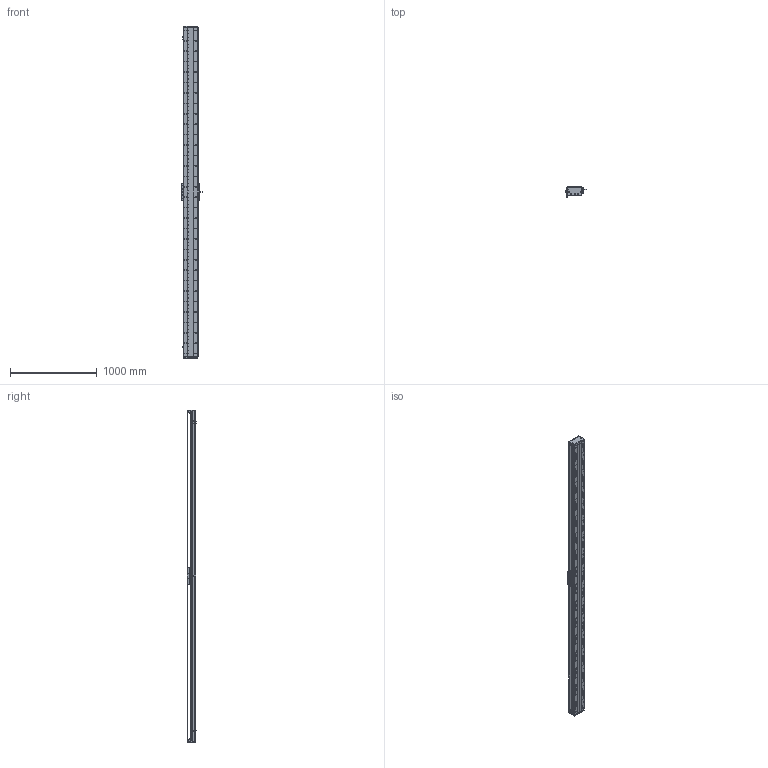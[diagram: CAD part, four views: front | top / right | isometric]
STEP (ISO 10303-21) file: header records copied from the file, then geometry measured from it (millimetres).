
FILE_DESCRIPTION (( 'STEP AP203' ), '1' );
FILE_NAME ('DA-C165-C2-T3540-C010-0.2 直线电机.STEP', '2023-05-11T08:06:40', ( '微软用户' ), ( '微软中国' ), 'SwSTEP 2.0', 'SolidWorks 2019', '' );
FILE_SCHEMA (( 'CONFIG_CONTROL_DESIGN' ));
Length unit declared in the file: millimetre
Products named in the file (18): 葩璃 PM-T45^DA-C165-C2-T-C010-0.2-N 眻盄萇儂; IU-CU165-L 菁釱絳寢; 复件 CKM02-W075-C1C2-TP-3.0 一体电机-C2^DA-C165-C2-T-C010-0.2-N 直线电机; DA-C165-C2-T3540-C010-0.2 眻盄萇儂; 复件 DA165-GYP-00 光电感应片^DA-C165-C2-T-C010-0.2-N 直线电机; 复件 XD-U-02L 磁栅尺^DA-C165-C2-T-C010-0.2-N 直线电机_T; 复件 六角薄螺母 M3^DA-C165-C2-T-C010-0.2-N 直线电机_GB_FASTENER_NUT_STNAB M3-C; 复件 DA165-GD-1860-002-00 钢带盖板^复件 CU165钢带组件_DA-C165-C2-T-C010-0.2-N 直线电机; IU-CU165-L-00 菁釱_L3780; 复件 CU165钢带组件^DA-C165-C2-T-C010-0.2-N 直线电机; 葩璃 DA95-GT-T-00^IU-CU165-L 菁釱絳寢_T; 复件 DA165-GDYK-00 钢带压块^复件 CU165钢带组件_DA-C165-C2-T-C010-0.2-N 直线电机; 葩璃 CKM01-W075-TRL^DA-C165-C2-T-C010-0.2-N 眻盄萇儂; 复件 DA95-HXJ-00 缓冲橡胶^DA-C165-C2-T-C010-0.2-N 直线电机; 珨极趙賑雄怢啣wf-C2; 复件 DA165-GD-DG-H-00 端盖^复件 CU165钢带组件_DA-C165-C2-T-C010-0.2-N 直线电机; 复件 DA165-GDLK-00 钢带拉块^复件 CU165钢带组件_DA-C165-C2-T-C010-0.2-N 直线电机; 复件 DMA-010-0.2 读数头^DA-C165-C2-T-C010-0.2-N 直线电机
Assembly tree (33 placements, depth 3):
  DA-C165-C2-T3540-C010-0.2 眻盄萇儂
    IU-CU165-L 菁釱絳寢
      IU-CU165-L-00 菁釱_L3780
      葩璃 DA95-GT-T-00^IU-CU165-L 菁釱絳寢_T  x4
    复件 XD-U-02L 磁栅尺^DA-C165-C2-T-C010-0.2-N 直线电机_T
    葩璃 PM-T45^DA-C165-C2-T-C010-0.2-N 眻盄萇儂  x3
    葩璃 CKM01-W075-TRL^DA-C165-C2-T-C010-0.2-N 眻盄萇儂
    复件 CU165钢带组件^DA-C165-C2-T-C010-0.2-N 直线电机
      复件 DA165-GD-DG-H-00 端盖^复件 CU165钢带组件_DA-C165-C2-T-C010-0.2-N 直线电机  x2
      复件 DA165-GDYK-00 钢带压块^复件 CU165钢带组件_DA-C165-C2-T-C010-0.2-N 直线电机  x2
      复件 DA165-GD-1860-002-00 钢带盖板^复件 CU165钢带组件_DA-C165-C2-T-C010-0.2-N 直线电机
      复件 DA165-GDLK-00 钢带拉块^复件 CU165钢带组件_DA-C165-C2-T-C010-0.2-N 直线电机  x2
    复件 DA95-HXJ-00 缓冲橡胶^DA-C165-C2-T-C010-0.2-N 直线电机  x4
    复件 DA165-GYP-00 光电感应片^DA-C165-C2-T-C010-0.2-N 直线电机
    复件 DMA-010-0.2 读数头^DA-C165-C2-T-C010-0.2-N 直线电机
    复件 CKM02-W075-C1C2-TP-3.0 一体电机-C2^DA-C165-C2-T-C010-0.2-N 直线电机
    复件 六角薄螺母 M3^DA-C165-C2-T-C010-0.2-N 直线电机_GB_FASTENER_NUT_STNAB M3-C  x6
    珨极趙賑雄怢啣wf-C2
Bounding box: 233 x 111.45 x 3820 mm (x, y, z)
Volume: 20290688.5 mm3; surface area: 6233303.1 mm2
Topology: 70 solids, 70 shells, 4491 faces, 13703 edges, 8833 vertices
Faces by surface type: cylinder 2869, plane 1142, cone 430, torus 46, sphere 4
Entity records: 161929 total; most frequent: CARTESIAN_POINT 46727, ORIENTED_EDGE 24578, DIRECTION 22915, EDGE_CURVE 12289, AXIS2_PLACEMENT_3D 8819, VERTEX_POINT 8069, EDGE_LOOP 5510, LINE 5277
